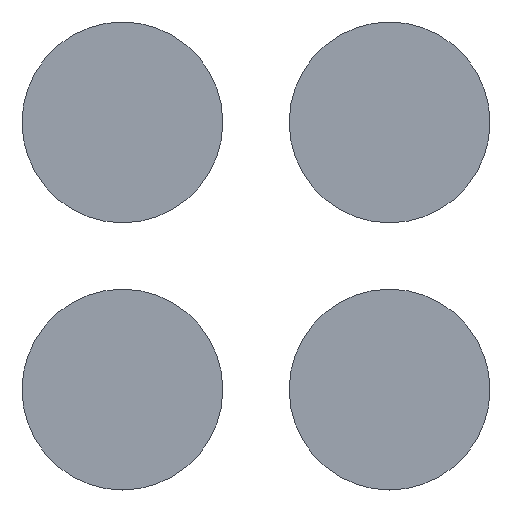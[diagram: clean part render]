
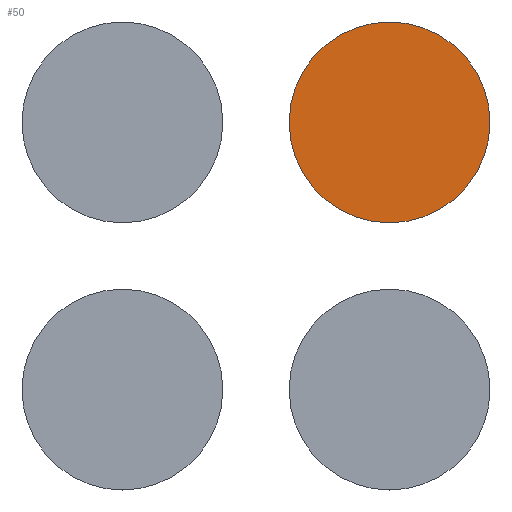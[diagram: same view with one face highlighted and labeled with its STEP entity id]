
A CAD part, top view. The second image highlights one B-rep face of the part: STEP entity #50.
In plain terms, the highlighted planar face has unit normal (0, 0, 1).
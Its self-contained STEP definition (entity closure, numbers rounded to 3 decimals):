
#21 = EDGE_CURVE('',#22,#22,#24,.T.);
#22 = VERTEX_POINT('',#23);
#23 = CARTESIAN_POINT('',(177.116,101.116,33.));
#24 = CIRCLE('',#25,76.);
#25 = AXIS2_PLACEMENT_3D('',#26,#27,#28);
#26 = CARTESIAN_POINT('',(101.116,101.116,33.));
#27 = DIRECTION('',(0.,0.,1.));
#28 = DIRECTION('',(1.,0.,0.));
#50 = ADVANCED_FACE('',(#51),#54,.T.);
#51 = FACE_BOUND('',#52,.T.);
#52 = EDGE_LOOP('',(#53));
#53 = ORIENTED_EDGE('',*,*,#21,.T.);
#54 = PLANE('',#55);
#55 = AXIS2_PLACEMENT_3D('',#56,#57,#58);
#56 = CARTESIAN_POINT('',(101.116,101.116,33.));
#57 = DIRECTION('',(0.,0.,1.));
#58 = DIRECTION('',(1.,0.,0.));
